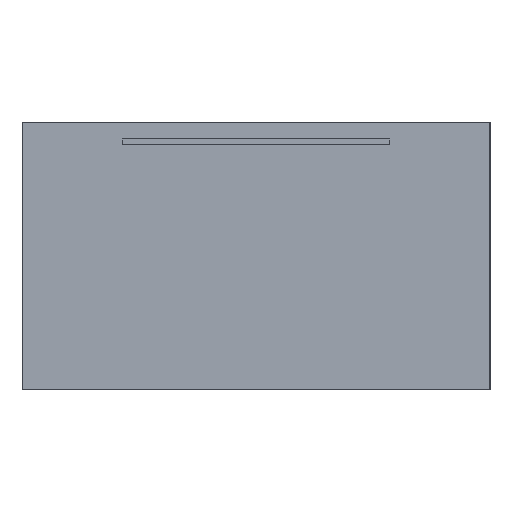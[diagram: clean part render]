
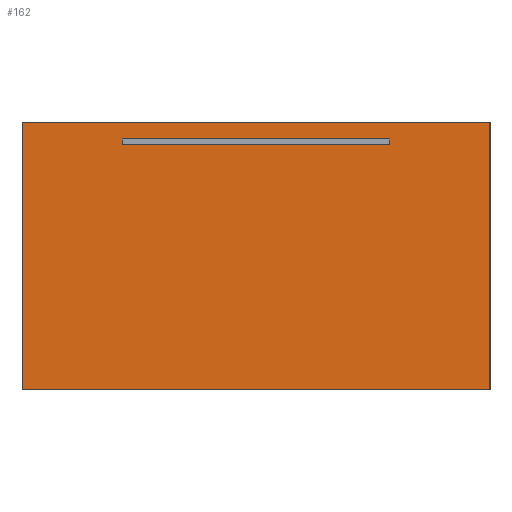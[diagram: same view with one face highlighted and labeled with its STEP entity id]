
A CAD part, top view. The second image highlights one B-rep face of the part: STEP entity #162.
In plain terms, the highlighted planar face has unit normal (0, 0, 1).
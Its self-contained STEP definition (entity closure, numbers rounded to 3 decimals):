
#66 = DIRECTION ( 'NONE',  ( -1., 0., 0. ) ) ;
#73 = VECTOR ( 'NONE', #902, 1000. ) ;
#95 = EDGE_CURVE ( 'NONE', #1873, #1242, #1489, .T. ) ;
#162 = ADVANCED_FACE ( 'NONE', ( #790, #1725 ), #806, .F. ) ;
#191 = CARTESIAN_POINT ( 'NONE',  ( 400., 335., 4. ) ) ;
#196 = VERTEX_POINT ( 'NONE', #1707 ) ;
#201 = DIRECTION ( 'NONE',  ( 0., 1., 0. ) ) ;
#203 = VECTOR ( 'NONE', #1465, 1000. ) ;
#209 = EDGE_CURVE ( 'NONE', #313, #1873, #672, .T. ) ;
#218 = LINE ( 'NONE', #1379, #381 ) ;
#219 = DIRECTION ( 'NONE',  ( 1., 0., 0. ) ) ;
#248 = CARTESIAN_POINT ( 'NONE',  ( 699.5, 399.5, 4. ) ) ;
#253 = LINE ( 'NONE', #1652, #1669 ) ;
#300 = LINE ( 'NONE', #336, #1860 ) ;
#313 = VERTEX_POINT ( 'NONE', #633 ) ;
#336 = CARTESIAN_POINT ( 'NONE',  ( -400., 350., 4. ) ) ;
#360 = DIRECTION ( 'NONE',  ( 0., 0., -1. ) ) ;
#381 = VECTOR ( 'NONE', #201, 1000. ) ;
#435 = VERTEX_POINT ( 'NONE', #612 ) ;
#480 = EDGE_LOOP ( 'NONE', ( #1107, #560, #1077, #1530 ) ) ;
#496 = DIRECTION ( 'NONE',  ( -1., 0., 0. ) ) ;
#511 = VERTEX_POINT ( 'NONE', #1343 ) ;
#560 = ORIENTED_EDGE ( 'NONE', *, *, #1877, .F. ) ;
#571 = EDGE_CURVE ( 'NONE', #1211, #196, #586, .T. ) ;
#586 = LINE ( 'NONE', #603, #1800 ) ;
#603 = CARTESIAN_POINT ( 'NONE',  ( 0., 399.5, 4. ) ) ;
#612 = CARTESIAN_POINT ( 'NONE',  ( -400., 350., 4. ) ) ;
#620 = ORIENTED_EDGE ( 'NONE', *, *, #826, .T. ) ;
#633 = CARTESIAN_POINT ( 'NONE',  ( -400., 335., 4. ) ) ;
#672 = LINE ( 'NONE', #1259, #764 ) ;
#673 = EDGE_CURVE ( 'NONE', #511, #1211, #218, .T. ) ;
#764 = VECTOR ( 'NONE', #1266, 1000. ) ;
#790 = FACE_BOUND ( 'NONE', #480, .T. ) ;
#806 = PLANE ( 'NONE',  #1582 ) ;
#826 = EDGE_CURVE ( 'NONE', #1291, #511, #1003, .T. ) ;
#893 = LINE ( 'NONE', #1758, #203 ) ;
#902 = DIRECTION ( 'NONE',  ( 0., 1., 0. ) ) ;
#916 = CARTESIAN_POINT ( 'NONE',  ( 400., 350., 4. ) ) ;
#937 = CARTESIAN_POINT ( 'NONE',  ( -699.5, -399.5, 4. ) ) ;
#943 = EDGE_CURVE ( 'NONE', #1242, #435, #300, .T. ) ;
#955 = CARTESIAN_POINT ( 'NONE',  ( 0., 0., 4. ) ) ;
#963 = VECTOR ( 'NONE', #219, 1000. ) ;
#1003 = LINE ( 'NONE', #1253, #963 ) ;
#1048 = ORIENTED_EDGE ( 'NONE', *, *, #1583, .T. ) ;
#1077 = ORIENTED_EDGE ( 'NONE', *, *, #943, .F. ) ;
#1082 = DIRECTION ( 'NONE',  ( 0., -1., 0. ) ) ;
#1084 = CARTESIAN_POINT ( 'NONE',  ( 400., 350., 4. ) ) ;
#1107 = ORIENTED_EDGE ( 'NONE', *, *, #209, .F. ) ;
#1211 = VERTEX_POINT ( 'NONE', #248 ) ;
#1242 = VERTEX_POINT ( 'NONE', #1084 ) ;
#1253 = CARTESIAN_POINT ( 'NONE',  ( 0., -399.5, 4. ) ) ;
#1259 = CARTESIAN_POINT ( 'NONE',  ( -400., 335., 4. ) ) ;
#1266 = DIRECTION ( 'NONE',  ( 1., 0., 0. ) ) ;
#1291 = VERTEX_POINT ( 'NONE', #937 ) ;
#1343 = CARTESIAN_POINT ( 'NONE',  ( 699.5, -399.5, 4. ) ) ;
#1379 = CARTESIAN_POINT ( 'NONE',  ( 699.5, 0., 4. ) ) ;
#1465 = DIRECTION ( 'NONE',  ( 0., -1., 0. ) ) ;
#1489 = LINE ( 'NONE', #916, #73 ) ;
#1530 = ORIENTED_EDGE ( 'NONE', *, *, #95, .F. ) ;
#1556 = ORIENTED_EDGE ( 'NONE', *, *, #571, .T. ) ;
#1565 = ORIENTED_EDGE ( 'NONE', *, *, #673, .T. ) ;
#1582 = AXIS2_PLACEMENT_3D ( 'NONE', #955, #360, #66 ) ;
#1583 = EDGE_CURVE ( 'NONE', #196, #1291, #893, .T. ) ;
#1623 = DIRECTION ( 'NONE',  ( -1., 0., 0. ) ) ;
#1652 = CARTESIAN_POINT ( 'NONE',  ( -400., 350., 4. ) ) ;
#1669 = VECTOR ( 'NONE', #1082, 1000. ) ;
#1707 = CARTESIAN_POINT ( 'NONE',  ( -699.5, 399.5, 4. ) ) ;
#1716 = EDGE_LOOP ( 'NONE', ( #1565, #1556, #1048, #620 ) ) ;
#1725 = FACE_OUTER_BOUND ( 'NONE', #1716, .T. ) ;
#1758 = CARTESIAN_POINT ( 'NONE',  ( -699.5, 0., 4. ) ) ;
#1800 = VECTOR ( 'NONE', #1623, 1000. ) ;
#1860 = VECTOR ( 'NONE', #496, 1000. ) ;
#1873 = VERTEX_POINT ( 'NONE', #191 ) ;
#1877 = EDGE_CURVE ( 'NONE', #435, #313, #253, .T. ) ;
